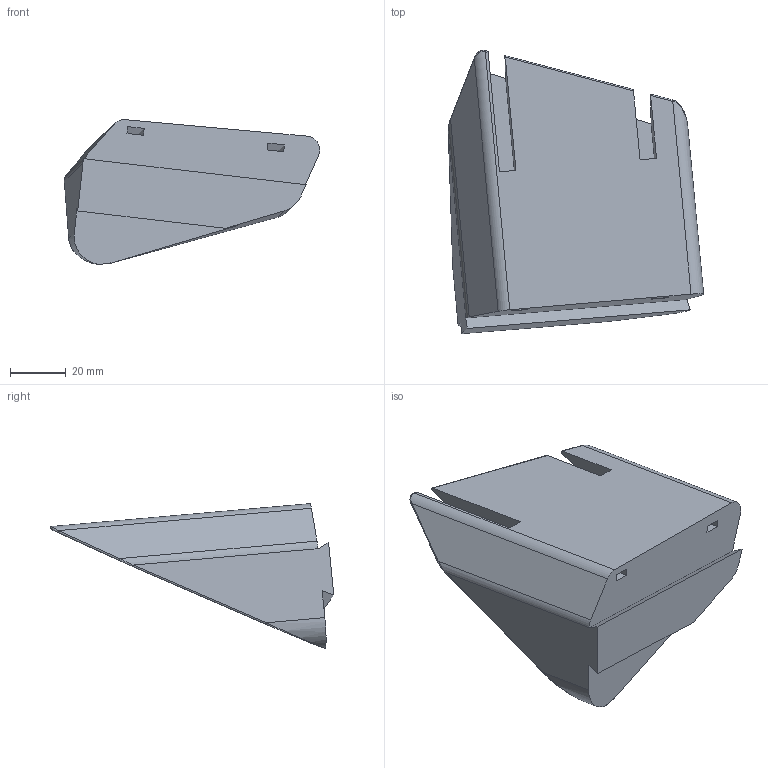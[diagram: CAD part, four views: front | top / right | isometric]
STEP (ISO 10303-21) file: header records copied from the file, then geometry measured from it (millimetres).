
FILE_DESCRIPTION(/* description */ ('STEP AP242','CAx-IF Rec.Pracs.---Representation and Presentation of Product Manufacturing Information (PMI)---4.0---2014-10-13','CAx-IF Rec.Pracs.---3D Tessellated Geometry---0.4---2014-09-14','2;1'),/* implementation_level */ '2;1');
FILE_NAME(/* name */ '65decdb7c68ba23d61067138',/* time_stamp */ '2024-02-28T06:07:51Z',/* author */ (''),/* organization */ (''),/* preprocessor_version */ 'ST-DEVELOPER v19.4',/* originating_system */ ' ',/* authorisation */ ' ');
FILE_SCHEMA (('AP242_MANAGED_MODEL_BASED_3D_ENGINEERING_MIM_LF { 1 0 10303 442 1 1 4 }'));
Length unit declared in the file: metre
Products named in the file (1): Lower Support L
Bounding box: 91.97 x 102.06 x 52.11 mm (x, y, z)
Volume: 156931.8 mm3; surface area: 24220 mm2
Topology: 1 solids, 1 shells, 39 faces, 107 edges, 68 vertices
Faces by surface type: plane 22, cylinder 12, bspline 5
Entity records: 1335 total; most frequent: CARTESIAN_POINT 312, ORIENTED_EDGE 214, DIRECTION 205, EDGE_CURVE 107, LINE 77, VECTOR 77, VERTEX_POINT 68, AXIS2_PLACEMENT_3D 64
